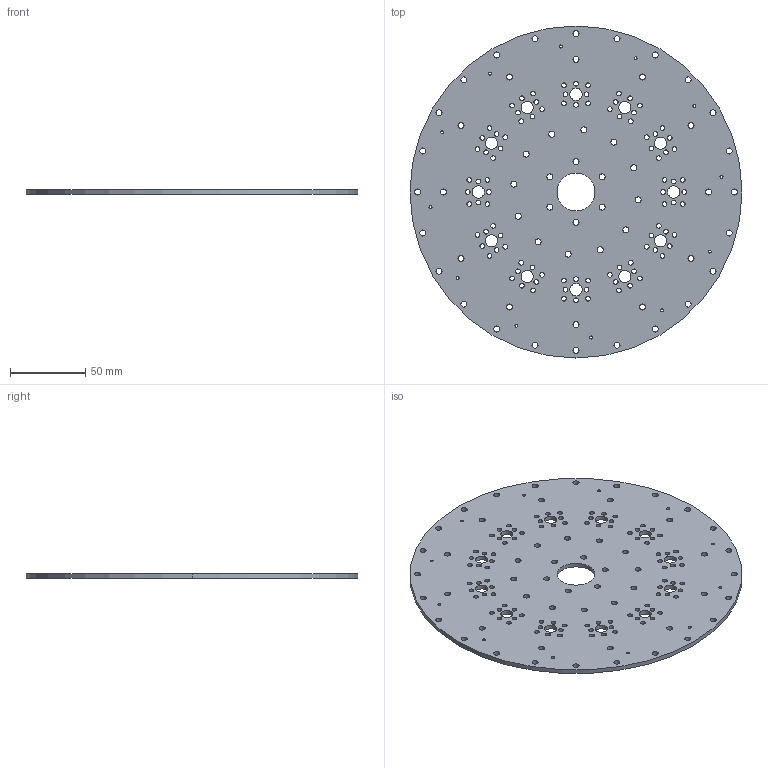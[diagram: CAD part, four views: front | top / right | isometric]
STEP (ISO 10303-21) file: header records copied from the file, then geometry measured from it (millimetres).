
FILE_DESCRIPTION (( 'STEP AP214' ), '1' );
FILE_NAME ('嗆儂裔.STEP', '2025-07-28T06:08:18', ( '' ), ( '' ), 'SwSTEP 2.0', 'SolidWorks 2025', '' );
FILE_SCHEMA (( 'AUTOMOTIVE_DESIGN' ));
Length unit declared in the file: millimetre
Products named in the file (1): 舵机盖
Bounding box: 220 x 220 x 3 mm (x, y, z)
Volume: 106389.5 mm3; surface area: 79218.3 mm2
Topology: 1 solids, 1 shells, 354 faces, 1056 edges, 704 vertices
Faces by surface type: cylinder 352, plane 2
Entity records: 13067 total; most frequent: DIRECTION 2470, CARTESIAN_POINT 2115, ORIENTED_EDGE 2112, AXIS2_PLACEMENT_3D 1059, EDGE_CURVE 1056, EDGE_LOOP 704, VERTEX_POINT 704, CIRCLE 704
